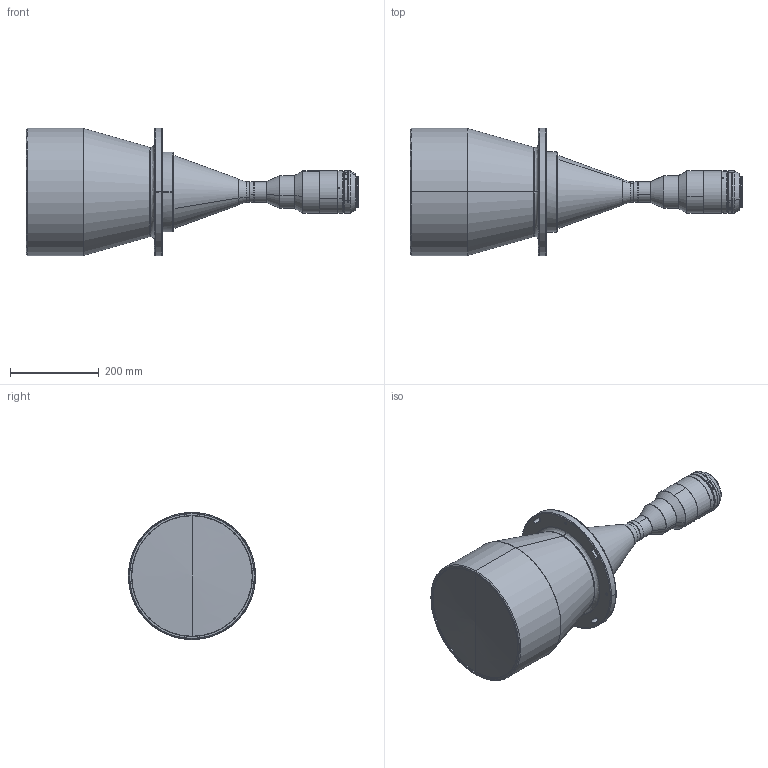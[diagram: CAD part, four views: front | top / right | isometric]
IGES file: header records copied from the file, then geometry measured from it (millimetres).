
Start section: SolidWorks IGES file using analytic representation for surfaces
Global section: file name: E:\----      产品2018.12.28\DTC\DTCM\F+B\－－ AL   可调后截距\240H-D17  AL-ok\DTCM150M-240H-M72-19.5-AL\3D\DTCM150M-240H-M72-19.IGS; native system: SolidWorks 2017; preprocessor: SolidWorks 2017; author: Frank-Luo; date: 200515.103523; units: millimetre
Bounding box: 746.97 x 286 x 286 mm (x, y, z)
Surface area: 540459.7 mm2 (no closed solid volume)
Topology: 0 solids, 0 shells, 164 faces, 3427 edges, 3423 vertices
Faces by surface type: revolution 119, bspline 45
